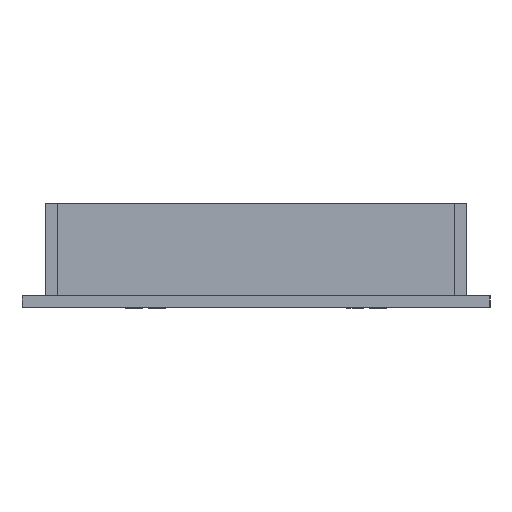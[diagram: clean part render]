
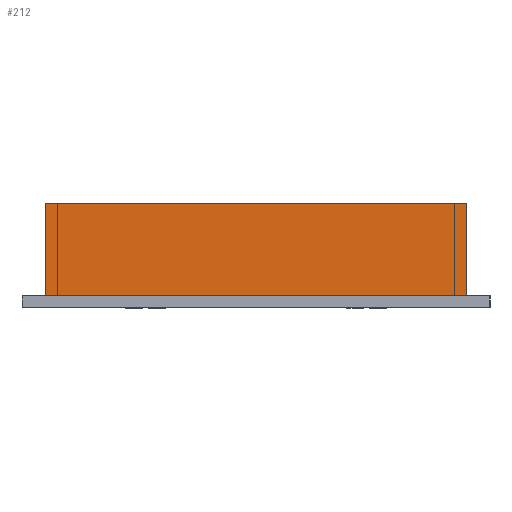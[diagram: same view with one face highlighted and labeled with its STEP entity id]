
A CAD part, left-side view. The second image highlights one B-rep face of the part: STEP entity #212.
In plain terms, the highlighted planar face has unit normal (-1, 0, 0).
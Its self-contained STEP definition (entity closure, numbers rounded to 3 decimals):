
#212=ADVANCED_FACE('',(#548),#5346,.T.);
#548=FACE_OUTER_BOUND('',#911,.T.);
#911=EDGE_LOOP('',(#1517,#1518,#1519,#1520));
#1517=ORIENTED_EDGE('',*,*,#3029,.T.);
#1518=ORIENTED_EDGE('',*,*,#3026,.T.);
#1519=ORIENTED_EDGE('',*,*,#3027,.F.);
#1520=ORIENTED_EDGE('',*,*,#3028,.F.);
#3026=EDGE_CURVE('',#4668,#4665,#4304,.T.);
#3027=EDGE_CURVE('',#4666,#4665,#4305,.T.);
#3028=EDGE_CURVE('',#4667,#4666,#4306,.T.);
#3029=EDGE_CURVE('',#4667,#4668,#4307,.T.);
#4304=B_SPLINE_CURVE_WITH_KNOTS('',1,(#8419,#8420),.UNSPECIFIED.,.F.,.F.,
(2,2),(0.,25.),.UNSPECIFIED.);
#4305=B_SPLINE_CURVE_WITH_KNOTS('',1,(#8421,#8422),.UNSPECIFIED.,.F.,.F.,
(2,2),(-3248.564,-3134.564),.UNSPECIFIED.);
#4306=B_SPLINE_CURVE_WITH_KNOTS('',1,(#8423,#8424),.UNSPECIFIED.,.F.,.F.,
(2,2),(0.,25.),.UNSPECIFIED.);
#4307=B_SPLINE_CURVE_WITH_KNOTS('',1,(#8425,#8426),.UNSPECIFIED.,.F.,.F.,
(2,2),(-3248.564,-3134.564),.UNSPECIFIED.);
#4665=VERTEX_POINT('',#8351);
#4666=VERTEX_POINT('',#8352);
#4667=VERTEX_POINT('',#8353);
#4668=VERTEX_POINT('',#8354);
#5346=PLANE('',#5574);
#5574=AXIS2_PLACEMENT_3D('',#7520,#5839,$);
#5839=DIRECTION('',(-1.,0.,0.));
#7520=CARTESIAN_POINT('',(6.5,-6.5,3.));
#8351=CARTESIAN_POINT('',(6.5,-120.5,28.));
#8352=CARTESIAN_POINT('',(6.5,-6.5,28.));
#8353=CARTESIAN_POINT('',(6.5,-6.5,3.));
#8354=CARTESIAN_POINT('',(6.5,-120.5,3.));
#8419=CARTESIAN_POINT('',(6.5,-120.5,3.));
#8420=CARTESIAN_POINT('',(6.5,-120.5,28.));
#8421=CARTESIAN_POINT('',(6.5,-6.5,28.));
#8422=CARTESIAN_POINT('',(6.5,-120.5,28.));
#8423=CARTESIAN_POINT('',(6.5,-6.5,3.));
#8424=CARTESIAN_POINT('',(6.5,-6.5,28.));
#8425=CARTESIAN_POINT('',(6.5,-6.5,3.));
#8426=CARTESIAN_POINT('',(6.5,-120.5,3.));
